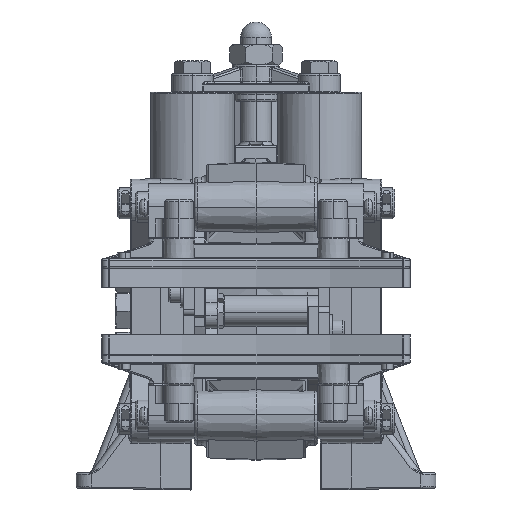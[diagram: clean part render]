
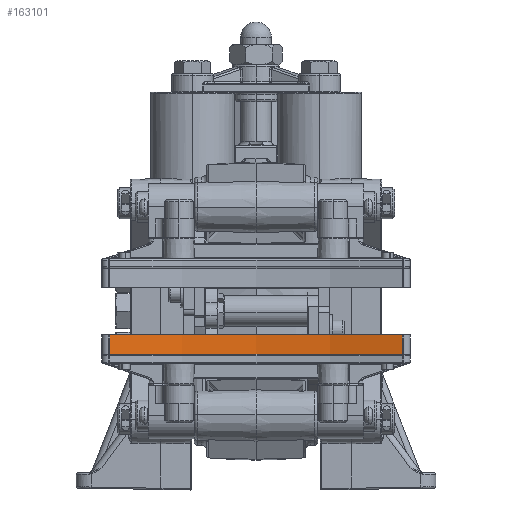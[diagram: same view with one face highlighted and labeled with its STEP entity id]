
A CAD part, left-side view. The second image highlights one B-rep face of the part: STEP entity #163101.
In plain terms, the highlighted cylindrical face has radius 203.2 mm (diameter 406.4 mm), a partial arc.
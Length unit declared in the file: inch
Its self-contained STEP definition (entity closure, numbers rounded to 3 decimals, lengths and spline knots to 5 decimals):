
#94 = EDGE_CURVE ( 'NONE', #118221, #90815, #62728, .T. ) ;
#2138 = CIRCLE ( 'NONE', #55885, 8. ) ;
#4671 = DIRECTION ( 'NONE',  ( 1., 0., 0. ) ) ;
#11104 = DIRECTION ( 'NONE',  ( 0., 0., 1. ) ) ;
#23452 = CIRCLE ( 'NONE', #103139, 8. ) ;
#39230 = DIRECTION ( 'NONE',  ( 0., 0., -1. ) ) ;
#55885 = AXIS2_PLACEMENT_3D ( 'NONE', #162339, #83487, #4671 ) ;
#62594 = VECTOR ( 'NONE', #152227, 39.37008 ) ;
#62728 = LINE ( 'NONE', #152795, #62594 ) ;
#83487 = DIRECTION ( 'NONE',  ( 0., 0., -1. ) ) ;
#89684 = CARTESIAN_POINT ( 'NONE',  ( -2.35923, -2.37037, -0.385 ) ) ;
#90815 = VERTEX_POINT ( 'NONE', #155519 ) ;
#94256 = VERTEX_POINT ( 'NONE', #102361 ) ;
#96290 = VERTEX_POINT ( 'NONE', #89684 ) ;
#99240 = CARTESIAN_POINT ( 'NONE',  ( -2.35923, 2.37037, -0.698 ) ) ;
#102361 = CARTESIAN_POINT ( 'NONE',  ( -2.35923, -2.37037, -0.698 ) ) ;
#103116 = CARTESIAN_POINT ( 'NONE',  ( -2.35923, -2.37037, -0.698 ) ) ;
#103139 = AXIS2_PLACEMENT_3D ( 'NONE', #117973, #39230, #131194 ) ;
#114315 = EDGE_LOOP ( 'NONE', ( #138924, #139808, #143050, #144058 ) ) ;
#116853 = EDGE_CURVE ( 'NONE', #94256, #96290, #128612, .T. ) ;
#117973 = CARTESIAN_POINT ( 'NONE',  ( -10., 0., -0.698 ) ) ;
#118221 = VERTEX_POINT ( 'NONE', #99240 ) ;
#128612 = LINE ( 'NONE', #103116, #163588 ) ;
#129009 = FACE_OUTER_BOUND ( 'NONE', #114315, .T. ) ;
#131194 = DIRECTION ( 'NONE',  ( 1., 0., 0. ) ) ;
#138924 = ORIENTED_EDGE ( 'NONE', *, *, #169820, .F. ) ;
#139808 = ORIENTED_EDGE ( 'NONE', *, *, #94, .F. ) ;
#143050 = ORIENTED_EDGE ( 'NONE', *, *, #164464, .T. ) ;
#144058 = ORIENTED_EDGE ( 'NONE', *, *, #116853, .T. ) ;
#144413 = DIRECTION ( 'NONE',  ( -1., 0., 0. ) ) ;
#147472 = CYLINDRICAL_SURFACE ( 'NONE', #155911, 8. ) ;
#152227 = DIRECTION ( 'NONE',  ( 0., 0., 1. ) ) ;
#152795 = CARTESIAN_POINT ( 'NONE',  ( -2.35923, 2.37037, -0.698 ) ) ;
#155519 = CARTESIAN_POINT ( 'NONE',  ( -2.35923, 2.37037, -0.385 ) ) ;
#155911 = AXIS2_PLACEMENT_3D ( 'NONE', #157109, #170392, #144413 ) ;
#157109 = CARTESIAN_POINT ( 'NONE',  ( -10., 0., -0.698 ) ) ;
#162339 = CARTESIAN_POINT ( 'NONE',  ( -10., 0., -0.385 ) ) ;
#163101 = ADVANCED_FACE ( 'NONE', ( #129009 ), #147472, .F. ) ;
#163588 = VECTOR ( 'NONE', #11104, 39.37008 ) ;
#164464 = EDGE_CURVE ( 'NONE', #118221, #94256, #23452, .T. ) ;
#169820 = EDGE_CURVE ( 'NONE', #90815, #96290, #2138, .T. ) ;
#170392 = DIRECTION ( 'NONE',  ( 0., 0., 1. ) ) ;
